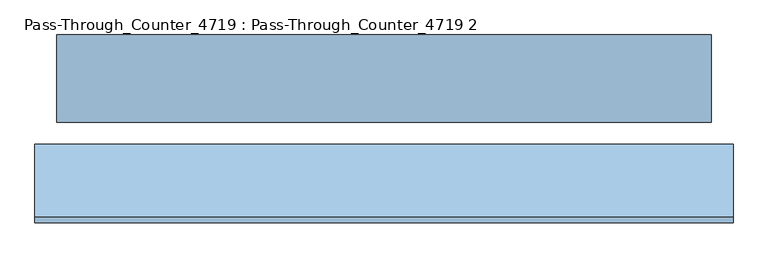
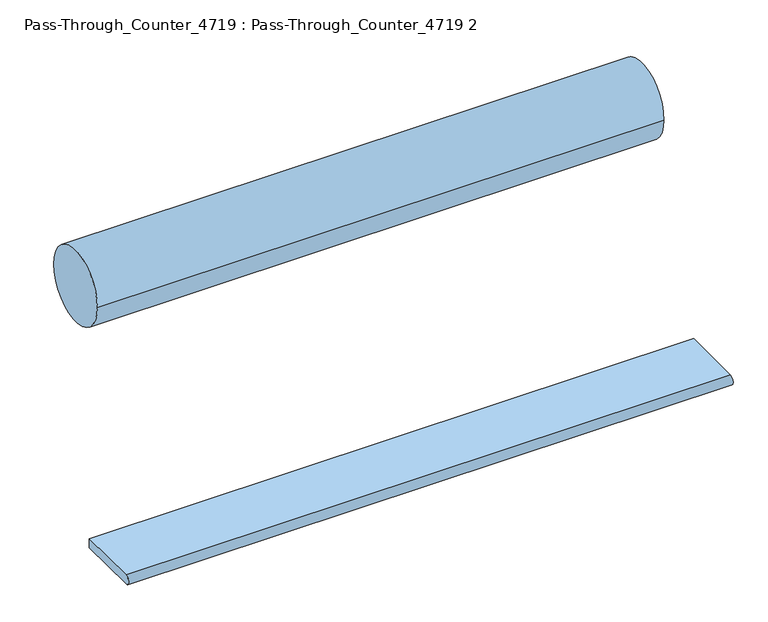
"""IFC4 building model written with IfcOpenShell, lengths in millimetres: window geometry, Pass-Through_Counter_4719 : Pass-Through_Counter_4719 2."""

from ifc_helpers import new_model, si_unit, point, frame, frame_2d, origin, place, context, project, spatial, polyline, circle_curve, trimmed, segment, composite_curve, outline, extrude, source, transform, mapped, element, save


def pass_through_counter_4719_pass_through_counter_4719_2_ca190591(model_context):
    return source(origin(), model_context, "Body", "SweptSolid", [
        extrude(outline(composite_curve([segment(polyline([(-381.0, 914.4), (-39.6875, 914.4), (-39.6875, 863.6), (-381.0, 863.6)]), True, "CONTINUOUS"), segment(trimmed(circle_curve(frame_2d((-381.0, 889.0)), 25.4), [point((-381.0, 863.6))], [point((-381.0, 914.4))], False, "CARTESIAN"), True, "CONTINUOUS")], self_intersect=False)), frame((-2387.6, 0.0, 0.0), z_axis=(1.0, 0.0, 0.0), x_axis=(0.0, 1.0, 0.0)), (0.0, 0.0, 1.0), 3251.2),
        extrude(outline(composite_curve([segment(trimmed(circle_curve(frame_2d((265.1125, 2133.6)), 203.2), [point((61.9125, 2133.6))], [point((468.3125, 2133.6))], False, "CARTESIAN"), True, "CONTINUOUS"), segment(trimmed(circle_curve(frame_2d((265.1125, 2133.6)), 203.2), [point((468.3125, 2133.6))], [point((61.9125, 2133.6))], False, "CARTESIAN"), True, "CONTINUOUS")], self_intersect=False)), frame((-2286.0, 0.0, 0.0), z_axis=(1.0, 0.0, 0.0), x_axis=(0.0, 1.0, 0.0)), (0.0, 0.0, 1.0), 3048.0),
    ])


if __name__ == "__main__":
    model = new_model("IFC4")
    model_context = context("Model", 3, world=origin())
    ifc_project = project(units=[si_unit("LENGTHUNIT", "METRE", prefix="MILLI")], contexts=[model_context])
    site = spatial("IfcSite", under=ifc_project)
    building = spatial("IfcBuilding", under=site)
    placement = place(None, origin())
    pass_through_counter_4719_pass_through_counter_4719_2_shape = pass_through_counter_4719_pass_through_counter_4719_2_ca190591(model_context)
    element("IfcWindow", 1, ObjectType="Pass-Through_Counter_4719 : Pass-Through_Counter_4719 2", at=placement, inside=building, context=model_context, shape_type="MappedRepresentation", body=[
        mapped(pass_through_counter_4719_pass_through_counter_4719_2_shape, transform((0.0, 0.0, 0.0), x_axis=(1.0, 0.0, 0.0), y_axis=(0.0, 1.0, 0.0), z_axis=(0.0, 0.0, 1.0))),
    ])
    save(model, "model.ifc")
